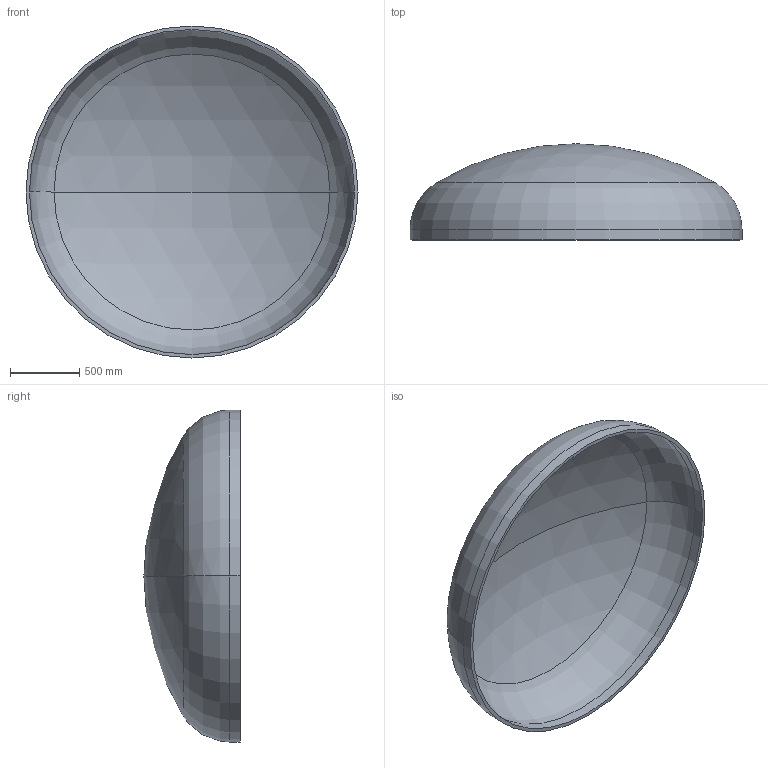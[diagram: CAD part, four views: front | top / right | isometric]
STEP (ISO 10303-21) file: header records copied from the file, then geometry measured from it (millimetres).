
FILE_DESCRIPTION (( 'STEP AP203' ), '1' );
FILE_NAME ('DIN 28013 Korbbogenform_-_Boden DIN 28013 - 2400 x 75 - I - s=25.step', '2016-07-01T15:12:39', ( '' ), ( '' ), 'SwSTEP 2.0', 'SolidWorks 2013', '' );
FILE_SCHEMA (( 'CONFIG_CONTROL_DESIGN' ));
Length unit declared in the file: millimetre
Products named in the file (1): DIN 28013 Korbbogenform_-_Boden DIN 28013 - 2400 x 75 - I - s=25
Bounding box: 2400 x 695.43 x 2400 mm (x, y, z)
Volume: 168517889.3 mm3; surface area: 13669267.3 mm2
Topology: 1 solids, 1 shells, 13 faces, 24 edges, 14 vertices
Faces by surface type: torus 4, cylinder 4, sphere 4, plane 1
Entity records: 407 total; most frequent: DIRECTION 72, CARTESIAN_POINT 52, ORIENTED_EDGE 48, AXIS2_PLACEMENT_3D 34, EDGE_CURVE 24, CIRCLE 20, EDGE_LOOP 14, VERTEX_POINT 14
